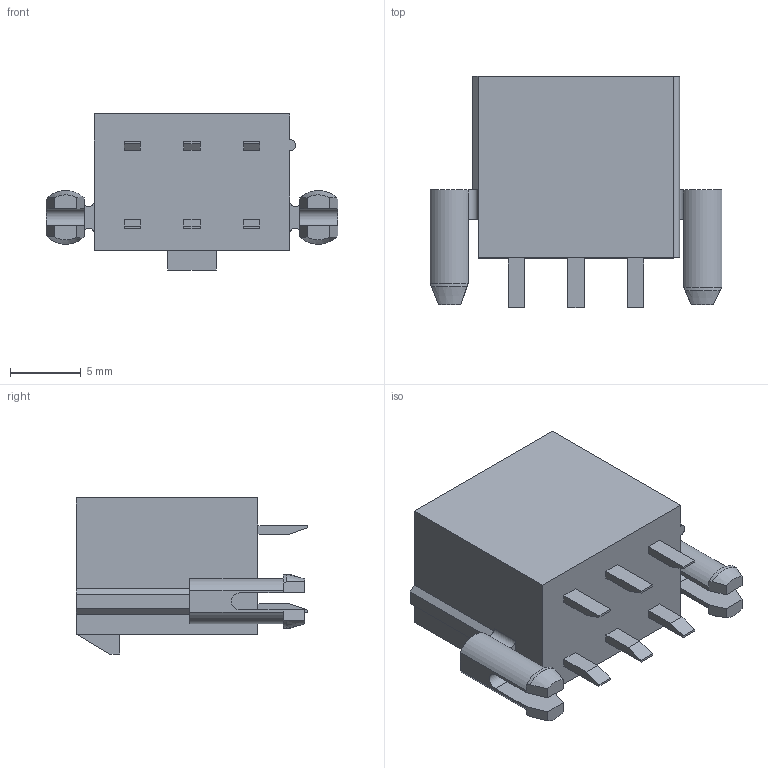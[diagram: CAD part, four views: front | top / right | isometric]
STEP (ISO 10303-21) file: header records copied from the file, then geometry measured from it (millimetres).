
FILE_DESCRIPTION((''),'2;1');
FILE_NAME('1724470006','2020-12-11T',('gga'),(''),'PRO/ENGINEER BY PARAMETRIC TECHNOLOGY CORPORATION, 2016010','PRO/ENGINEER BY PARAMETRIC TECHNOLOGY CORPORATION, 2016010','');
FILE_SCHEMA(('CONFIG_CONTROL_DESIGN'));
Length unit declared in the file: millimetre
Products named in the file (1): 1724470006
Bounding box: 20.58 x 16.3 x 11 mm (x, y, z)
Volume: 1175.4 mm3; surface area: 2071.7 mm2
Topology: 1 solids, 1 shells, 170 faces, 451 edges, 304 vertices
Faces by surface type: plane 151, cylinder 15, cone 4
Entity records: 5232 total; most frequent: CARTESIAN_POINT 954, ORIENTED_EDGE 866, DIRECTION 827, EDGE_CURVE 433, VECTOR 385, LINE 385, VERTEX_POINT 284, AXIS2_PLACEMENT_3D 221
